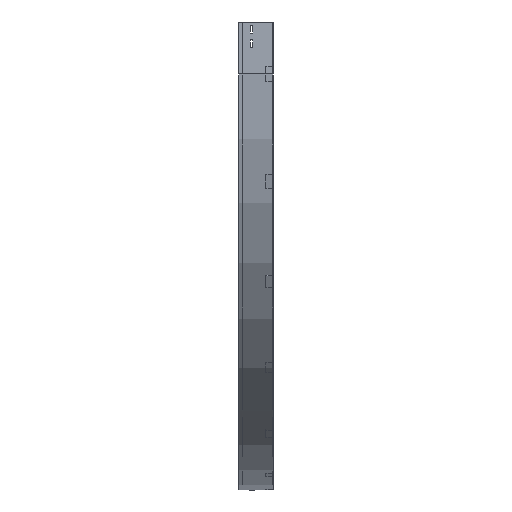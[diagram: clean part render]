
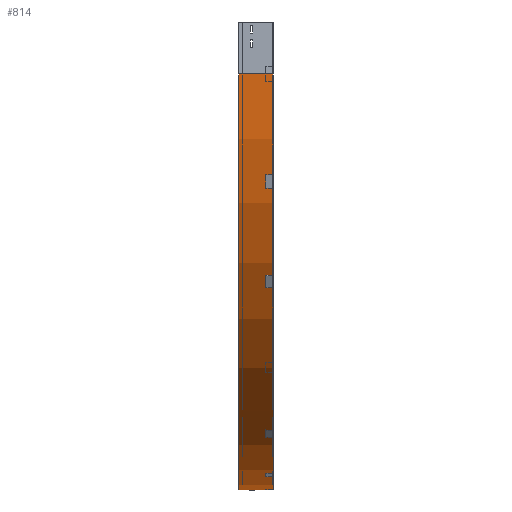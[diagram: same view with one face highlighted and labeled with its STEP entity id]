
A CAD part, left-side view. The second image highlights one B-rep face of the part: STEP entity #814.
In plain terms, the highlighted cylindrical face has radius 1200 mm (diameter 2400 mm), a partial arc.
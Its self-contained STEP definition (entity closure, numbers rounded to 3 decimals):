
#98 = CARTESIAN_POINT ( 'NONE',  ( 1200., 0., -1350. ) ) ;
#139 = CARTESIAN_POINT ( 'NONE',  ( 1200., 100., -1350. ) ) ;
#170 = VECTOR ( 'NONE', #1977, 1000. ) ;
#339 = CARTESIAN_POINT ( 'NONE',  ( 0., 0., -150. ) ) ;
#482 = EDGE_LOOP ( 'NONE', ( #888, #2034, #1716, #3445 ) ) ;
#496 = VERTEX_POINT ( 'NONE', #1963 ) ;
#673 = EDGE_CURVE ( 'NONE', #3728, #3393, #3624, .T. ) ;
#677 = CIRCLE ( 'NONE', #1172, 1200. ) ;
#745 = DIRECTION ( 'NONE',  ( 0., -1., 0. ) ) ;
#783 = LINE ( 'NONE', #2015, #170 ) ;
#814 = ADVANCED_FACE ( 'NONE', ( #1846 ), #3449, .T. ) ;
#821 = EDGE_CURVE ( 'NONE', #496, #3728, #677, .T. ) ;
#888 = ORIENTED_EDGE ( 'NONE', *, *, #3280, .F. ) ;
#1172 = AXIS2_PLACEMENT_3D ( 'NONE', #1344, #2563, #3775 ) ;
#1344 = CARTESIAN_POINT ( 'NONE',  ( 1200., 100., -150. ) ) ;
#1367 = CARTESIAN_POINT ( 'NONE',  ( 1200., 0., -150. ) ) ;
#1403 = DIRECTION ( 'NONE',  ( 0., 0., -1. ) ) ;
#1616 = VECTOR ( 'NONE', #3561, 1000. ) ;
#1618 = VERTEX_POINT ( 'NONE', #339 ) ;
#1716 = ORIENTED_EDGE ( 'NONE', *, *, #821, .T. ) ;
#1846 = FACE_OUTER_BOUND ( 'NONE', #482, .T. ) ;
#1876 = EDGE_CURVE ( 'NONE', #496, #1618, #783, .T. ) ;
#1963 = CARTESIAN_POINT ( 'NONE',  ( 0., 100., -150. ) ) ;
#1977 = DIRECTION ( 'NONE',  ( 0., -1., 0. ) ) ;
#2015 = CARTESIAN_POINT ( 'NONE',  ( 0., 0., -150. ) ) ;
#2034 = ORIENTED_EDGE ( 'NONE', *, *, #1876, .F. ) ;
#2350 = CARTESIAN_POINT ( 'NONE',  ( 1200., 0., -1350. ) ) ;
#2359 = AXIS2_PLACEMENT_3D ( 'NONE', #1367, #3778, #2584 ) ;
#2362 = AXIS2_PLACEMENT_3D ( 'NONE', #3207, #745, #1403 ) ;
#2481 = CIRCLE ( 'NONE', #2359, 1200. ) ;
#2563 = DIRECTION ( 'NONE',  ( 0., -1., 0. ) ) ;
#2584 = DIRECTION ( 'NONE',  ( -1., 0., 0. ) ) ;
#3207 = CARTESIAN_POINT ( 'NONE',  ( 1200., 0., -150. ) ) ;
#3280 = EDGE_CURVE ( 'NONE', #1618, #3393, #2481, .T. ) ;
#3393 = VERTEX_POINT ( 'NONE', #98 ) ;
#3445 = ORIENTED_EDGE ( 'NONE', *, *, #673, .T. ) ;
#3449 = CYLINDRICAL_SURFACE ( 'NONE', #2362, 1200. ) ;
#3561 = DIRECTION ( 'NONE',  ( 0., -1., 0. ) ) ;
#3624 = LINE ( 'NONE', #2350, #1616 ) ;
#3728 = VERTEX_POINT ( 'NONE', #139 ) ;
#3775 = DIRECTION ( 'NONE',  ( -1., 0., 0. ) ) ;
#3778 = DIRECTION ( 'NONE',  ( 0., -1., 0. ) ) ;
